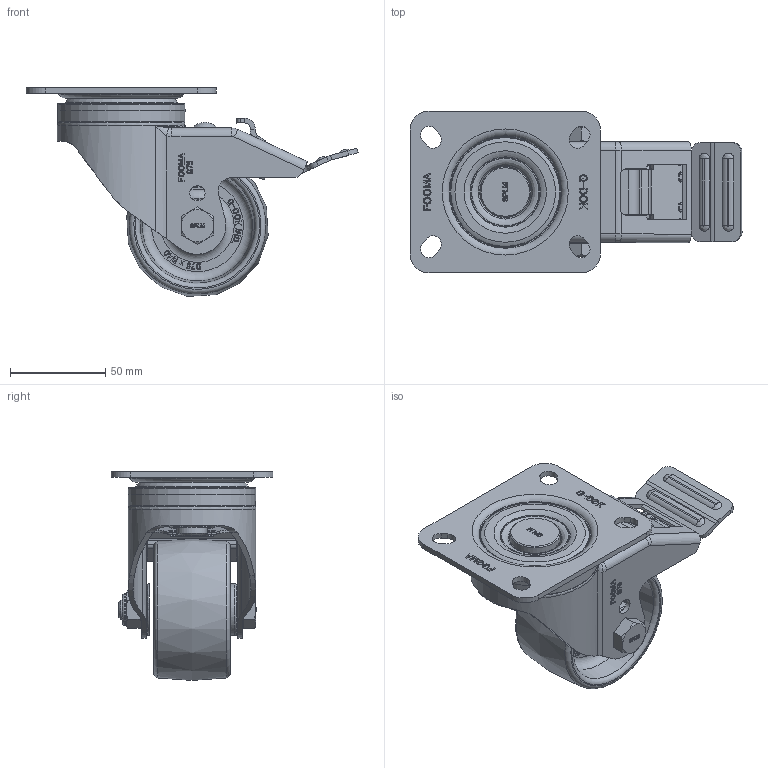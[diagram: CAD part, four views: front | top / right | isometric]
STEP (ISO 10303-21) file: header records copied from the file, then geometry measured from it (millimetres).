
FILE_DESCRIPTION(/* description */ (''),/* implementation_level */ '2;1');
FILE_NAME(/* name */ '\\192.168.10.38\지덕공유\1.기술연구소\2.연구개발 완료\완료_98.스테인레스캐스터 개발건_2023.10.26\제품설계\3D\홈페이지용\NYP\STP\SPLM-75-BSF-NYP-PEU.stp',/* time_stamp */ '2025-07-17T15:36:05+09:00',/* author */ ('admin'),/* organization */ ('지덕산업'),/* preprocessor_version */ 'ST-DEVELOPER v18.1',/* originating_system */ 'Autodesk Inventor 2021',/* authorisation */ '');
FILE_SCHEMA (('CONFIG_CONTROL_DESIGN'));
Products named in the file (1): SPLM-75-BSF-NYP-PEU
Bounding box: 174.29 x 85 x 109.63 mm (x, y, z)
Volume: 242307.2 mm3; surface area: 90395.2 mm2
Topology: 1 solids, 1 shells, 1678 faces, 4467 edges, 2880 vertices
Faces by surface type: plane 848, bspline 466, cylinder 256, cone 65, torus 42, sphere 1
Full cylindrical faces by diameter (mm): 6 x1, 7 x3, 8 x2, 9 x1, 10 x2, 11 x1, 12 x1, 16 x2, 16.5 x1, 26.6 x1, 54 x1, 67 x1
Entity records: 53964 total; most frequent: CARTESIAN_POINT 15178, ORIENTED_EDGE 8926, DIRECTION 6527, EDGE_CURVE 4463, VERTEX_POINT 2880, LINE 2675, VECTOR 2675, AXIS2_PLACEMENT_3D 1926
